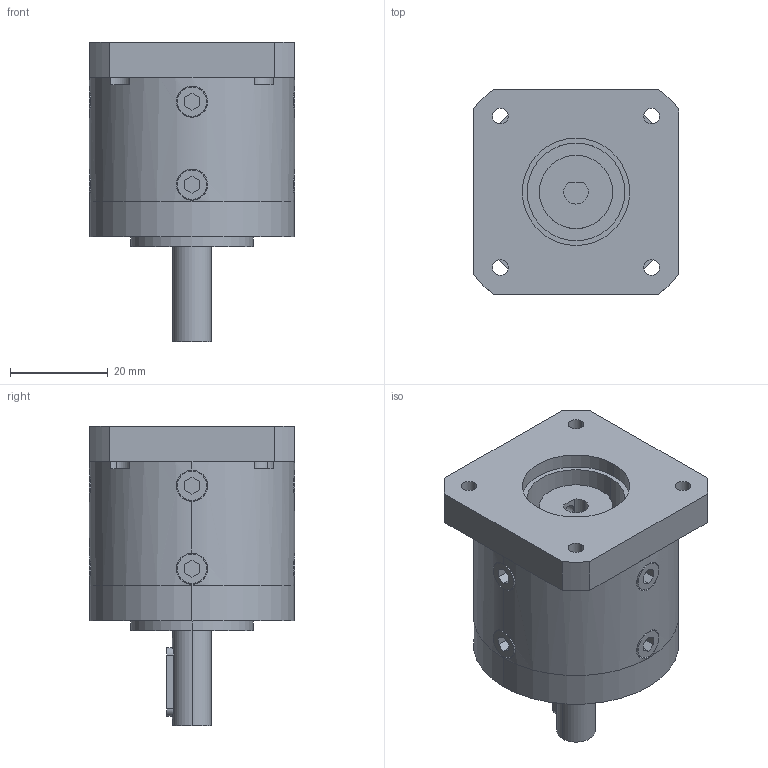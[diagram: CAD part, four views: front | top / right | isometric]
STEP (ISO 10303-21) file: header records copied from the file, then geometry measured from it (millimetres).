
FILE_DESCRIPTION (( 'STEP AP214' ), '1' );
FILE_NAME ('DLE42-L1-( )-J8.step', '2020-11-17T05:58:40', ( 'Moofasta' ), ( '' ), 'SwSTEP 2.0', 'SolidWorks 2020', '' );
FILE_SCHEMA (( 'AUTOMOTIVE_DESIGN' ));
Length unit declared in the file: millimetre
Products named in the file (1): DLE42-L1-(   )-J8
Bounding box: 42 x 42 x 61.4 mm (x, y, z)
Volume: 54466.1 mm3; surface area: 17099 mm2
Topology: 2 solids, 3 shells, 221 faces, 537 edges, 346 vertices
Faces by surface type: plane 114, cylinder 95, cone 12
Entity records: 7194 total; most frequent: CARTESIAN_POINT 1720, DIRECTION 1127, ORIENTED_EDGE 1050, EDGE_CURVE 525, AXIS2_PLACEMENT_3D 409, VERTEX_POINT 346, LINE 309, VECTOR 309
